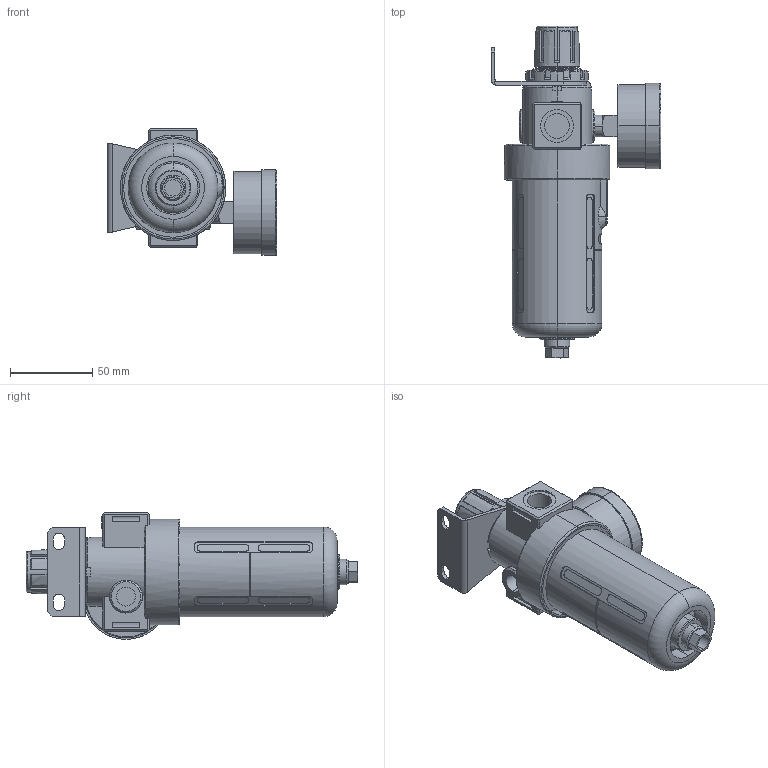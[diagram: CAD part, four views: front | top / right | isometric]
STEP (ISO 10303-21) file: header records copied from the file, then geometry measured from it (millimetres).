
FILE_DESCRIPTION (( 'STEP AP214' ), '1' );
FILE_NAME ('BFR-3000.STEP', '2016-01-21T16:11:53', ( '' ), ( '' ), 'SwSTEP 2.0', 'SolidWorks 2016', '' );
FILE_SCHEMA (( 'AUTOMOTIVE_DESIGN' ));
Length unit declared in the file: millimetre
Products named in the file (6): 3; BFR-3000; 4; 1; 2; 5
Assembly tree (5 placements, depth 2):
  BFR-3000
    1
    2
    3
    4
    5
Bounding box: 103 x 201.6 x 77 mm (x, y, z)
Volume: 268276.6 mm3; surface area: 89905.4 mm2
Topology: 5 solids, 5 shells, 1032 faces, 2807 edges, 1847 vertices
Faces by surface type: plane 650, cylinder 289, cone 71, torus 22
Entity records: 45879 total; most frequent: CARTESIAN_POINT 7856, ORIENTED_EDGE 5614, DIRECTION 5434, EDGE_CURVE 2807, LINE 1906, VECTOR 1906, VERTEX_POINT 1847, AXIS2_PLACEMENT_3D 1764
